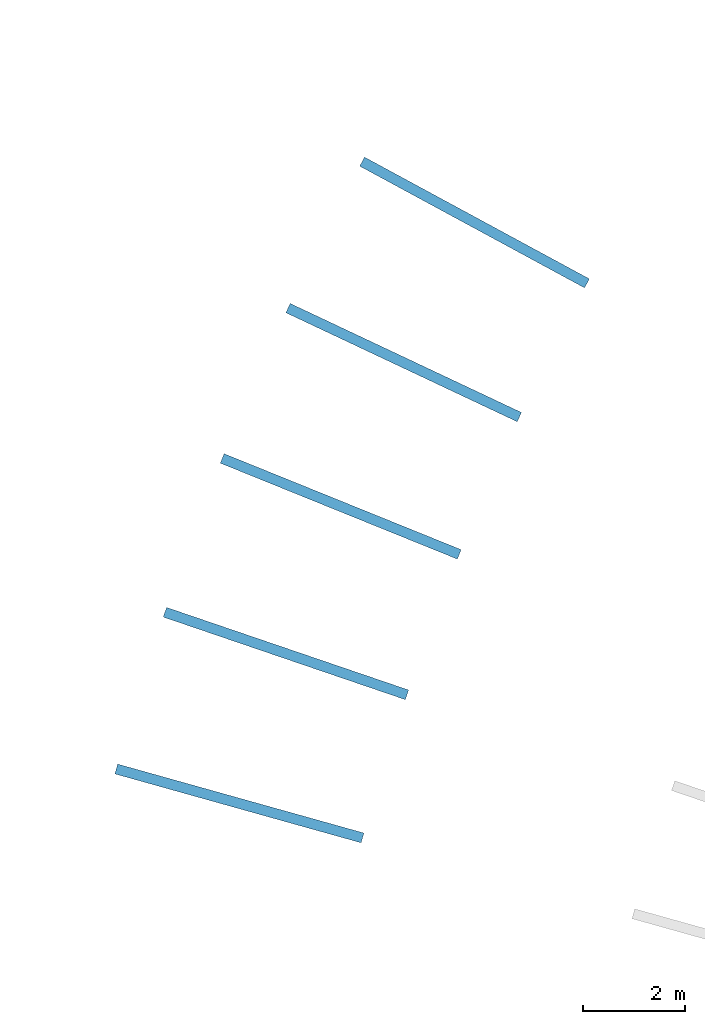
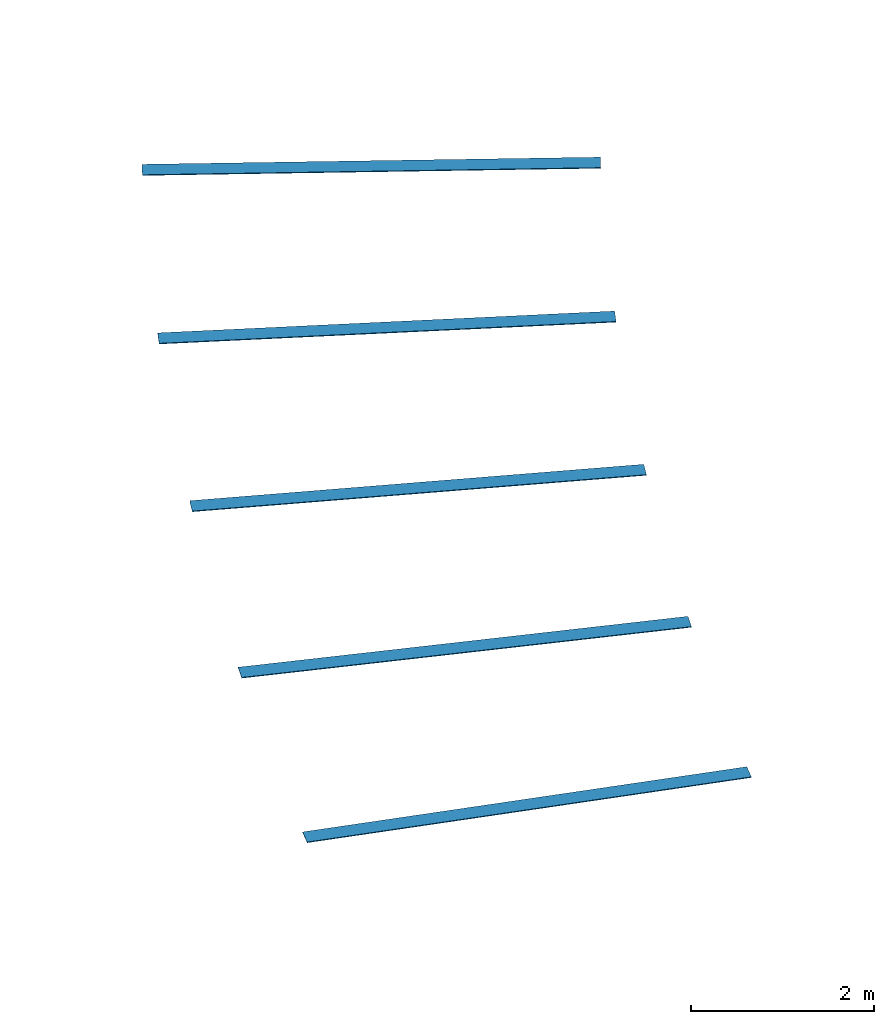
# One storey, part 87 of 157: 5 walls.
"""IFC2X3 building model written with IfcOpenShell, lengths in millimetres."""

from ifc_helpers import new_model, entity, si_unit, converted_unit, derived_unit, direction, frame, frame_2d, origin, origin_2d_with_axis, place, context, subcontext, project, spatial, rectangle, extrude, material, type_object, element, save


model = new_model("IFC2X3")

# Units and contexts
model_context = context("Model", 3, precision=0.01, world=origin(), true_north=direction((6.123031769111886e-17, 1.0)))
body_context = subcontext(model_context, "Body", "Model", "MODEL_VIEW")
ifc_project = project(units=[si_unit("LENGTHUNIT", "METRE", prefix="MILLI"), si_unit("AREAUNIT", "SQUARE_METRE"), si_unit("VOLUMEUNIT", "CUBIC_METRE"), converted_unit("PLANEANGLEUNIT", "DEGREE", entity("IfcRatioMeasure", 0.017453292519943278), si_unit("PLANEANGLEUNIT", "RADIAN"), dimensions=[0, 0, 0, 0, 0, 0, 0]), si_unit("MASSUNIT", "GRAM", prefix="KILO"), derived_unit("MASSDENSITYUNIT", [(si_unit("MASSUNIT", "GRAM", prefix="KILO"), 1), (si_unit("LENGTHUNIT", "METRE"), -3)]), derived_unit("MOMENTOFINERTIAUNIT", [(si_unit("LENGTHUNIT", "METRE"), 4)]), si_unit("TIMEUNIT", "SECOND"), si_unit("FREQUENCYUNIT", "HERTZ"), si_unit("THERMODYNAMICTEMPERATUREUNIT", "DEGREE_CELSIUS"), derived_unit("THERMALTRANSMITTANCEUNIT", [(si_unit("MASSUNIT", "GRAM", prefix="KILO"), 1), (si_unit("THERMODYNAMICTEMPERATUREUNIT", "KELVIN"), -1), (si_unit("TIMEUNIT", "SECOND"), -3)]), derived_unit("THERMALCONDUCTANCEUNIT", [(si_unit("MASSUNIT", "GRAM", prefix="KILO"), 1), (si_unit("LENGTHUNIT", "METRE"), 1), (si_unit("THERMODYNAMICTEMPERATUREUNIT", "KELVIN"), -1), (si_unit("TIMEUNIT", "SECOND"), -3)]), derived_unit("VOLUMETRICFLOWRATEUNIT", [(si_unit("LENGTHUNIT", "METRE"), 3), (si_unit("TIMEUNIT", "SECOND"), -1)]), derived_unit("MASSFLOWRATEUNIT", [(si_unit("MASSUNIT", "GRAM", prefix="KILO"), 1), (si_unit("TIMEUNIT", "SECOND"), -1)]), derived_unit("ROTATIONALFREQUENCYUNIT", [(si_unit("TIMEUNIT", "SECOND"), -1)]), si_unit("ELECTRICCURRENTUNIT", "AMPERE"), si_unit("ELECTRICVOLTAGEUNIT", "VOLT"), si_unit("POWERUNIT", "WATT"), converted_unit("FORCEUNIT", "KIP", entity("IfcRatioMeasure", 2.088543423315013e-05), si_unit("FORCEUNIT", "NEWTON"), dimensions=[1, 1, -2, 0, 0, 0, 0]), si_unit("ILLUMINANCEUNIT", "LUX"), si_unit("LUMINOUSFLUXUNIT", "LUMEN"), si_unit("LUMINOUSINTENSITYUNIT", "CANDELA"), derived_unit("USERDEFINED", [(si_unit("MASSUNIT", "GRAM", prefix="KILO"), -1), (si_unit("LENGTHUNIT", "METRE"), -2), (si_unit("TIMEUNIT", "SECOND"), 3), (si_unit("LUMINOUSFLUXUNIT", "LUMEN"), 1)]), derived_unit("USERDEFINED", [(si_unit("MASSUNIT", "GRAM", prefix="KILO"), 1), (si_unit("LENGTHUNIT", "METRE"), 3), (si_unit("TIMEUNIT", "SECOND"), -3), (si_unit("ELECTRICCURRENTUNIT", "AMPERE"), -2)]), derived_unit("USERDEFINED", [(si_unit("LENGTHUNIT", "METRE"), 2), (si_unit("TIMEUNIT", "SECOND"), -2)]), derived_unit("SOUNDPOWERUNIT", [(si_unit("MASSUNIT", "GRAM", prefix="KILO"), 1), (si_unit("LENGTHUNIT", "METRE"), 2), (si_unit("TIMEUNIT", "SECOND"), -3)]), derived_unit("SOUNDPRESSUREUNIT", [(si_unit("MASSUNIT", "GRAM", prefix="KILO"), 1), (si_unit("LENGTHUNIT", "METRE"), -1), (si_unit("TIMEUNIT", "SECOND"), -2)]), derived_unit("LINEARVELOCITYUNIT", [(si_unit("LENGTHUNIT", "METRE"), 1), (si_unit("TIMEUNIT", "SECOND"), -1)]), si_unit("PRESSUREUNIT", "PASCAL"), derived_unit("USERDEFINED", [(si_unit("LENGTHUNIT", "METRE"), -2), (si_unit("MASSUNIT", "GRAM", prefix="KILO"), 1), (si_unit("TIMEUNIT", "SECOND"), -2)]), derived_unit("LINEARFORCEUNIT", [(si_unit("MASSUNIT", "GRAM", prefix="KILO"), 1), (si_unit("LENGTHUNIT", "METRE"), 1), (si_unit("TIMEUNIT", "SECOND"), -2), (si_unit("LENGTHUNIT", "METRE"), -1)]), derived_unit("PLANARFORCEUNIT", [(si_unit("MASSUNIT", "GRAM", prefix="KILO"), 1), (si_unit("LENGTHUNIT", "METRE"), 1), (si_unit("TIMEUNIT", "SECOND"), -2), (si_unit("LENGTHUNIT", "METRE"), -2)]), derived_unit("SPECIFICHEATCAPACITYUNIT", [(si_unit("LENGTHUNIT", "METRE"), 2), (si_unit("TIMEUNIT", "SECOND"), -2), (si_unit("THERMODYNAMICTEMPERATUREUNIT", "KELVIN"), -1)]), derived_unit("VAPORPERMEABILITYUNIT", [(si_unit("TIMEUNIT", "SECOND"), 1), (si_unit("LENGTHUNIT", "METRE"), -1)]), derived_unit("DYNAMICVISCOSITYUNIT", [(si_unit("MASSUNIT", "GRAM", prefix="KILO"), 1), (si_unit("LENGTHUNIT", "METRE"), -1), (si_unit("TIMEUNIT", "SECOND"), -1)]), derived_unit("THERMALEXPANSIONCOEFFICIENTUNIT", [(si_unit("THERMODYNAMICTEMPERATUREUNIT", "KELVIN"), -1)])], contexts=[model_context])

# Site, building, storey
site_placement = place(None, frame((0.0, 0.0, 0.0), z_axis=(0.0, 0.0, 1.0), x_axis=(0.8191520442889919, 0.5735764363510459, 0.0)))
site = spatial("IfcSite", under=ifc_project, at=site_placement, Name="Default", CompositionType="ELEMENT")
building_placement = place(site_placement, origin())
building = spatial("IfcBuilding", under=site, at=building_placement, CompositionType="ELEMENT")
storey_placement = place(building_placement, origin())
storey = spatial("IfcBuildingStorey", under=building, at=storey_placement, Name="1.EG +0.00", CompositionType="ELEMENT", Elevation=-4.331468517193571e-12)

# Walls
ifc_material = material(Name="road_markirovka")
wall_type_1 = type_object("IfcWallType", Name="83", PredefinedType="NOTDEFINED", material=ifc_material)
wall_1_placement = place(storey_placement, frame((-66127.65770702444, -21035.492749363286, 400.0), z_axis=(0.0, 0.0, 1.0), x_axis=(0.0, 1.0, 0.0)))
element("IfcWall", 1, at=wall_1_placement, inside=storey, type_object=wall_type_1, material=ifc_material, Name="83:83", ObjectType="83:83", context=body_context, shape_type="SweptSolid", body=[
    extrude(rectangle(XDim=199.99999999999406, YDim=5000.000000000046, at=frame_2d((2.9771740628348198e-12, -3.637978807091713e-12), x_axis=(1.0, 0.0))), frame((2280.7629412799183, -1207.532940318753, 0.0), z_axis=(0.0, 0.0, 1.0), x_axis=(0.4472365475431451, -0.8944157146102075, 0.0)), (0.0, 0.0, 1.0), 9.999999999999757),
])
wall_type_2 = type_object("IfcWallType", Name="86", PredefinedType="NOTDEFINED", material=ifc_material)
wall_2_placement = place(storey_placement, frame((-74331.47293827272, -25620.34720745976, 400.0), z_axis=(0.0, 0.0, 1.0), x_axis=(0.0, 1.0, 0.0)))
element("IfcWall", 2, at=wall_2_placement, inside=storey, type_object=wall_type_2, material=ifc_material, Name="86 206606:86 206606", ObjectType="86 206606:86 206606", context=body_context, shape_type="SweptSolid", body=[
    extrude(rectangle(XDim=200.0000000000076, YDim=5000.000000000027, at=origin_2d_with_axis()), frame((2077.399309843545, -1555.8932232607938, 0.0), z_axis=(0.0, 0.0, 1.0), x_axis=(0.5900630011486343, -0.8073572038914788, 0.0)), (0.0, 0.0, 1.0), 9.999999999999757),
])
wall_type_3 = type_object("IfcWallType", Name="85", PredefinedType="NOTDEFINED", material=ifc_material)
wall_3_placement = place(storey_placement, frame((-71691.74789798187, -23953.423241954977, 400.0), z_axis=(0.0, 0.0, 1.0), x_axis=(0.0, 1.0, 0.0)))
element("IfcWall", 3, at=wall_3_placement, inside=storey, type_object=wall_type_3, material=ifc_material, Name="85 206813:85 206813", ObjectType="85 206813:85 206813", context=body_context, shape_type="SweptSolid", body=[
    extrude(rectangle(XDim=200.00000000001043, YDim=5000.0000000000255, at=origin_2d_with_axis()), frame((2151.961435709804, -1444.15124079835, 0.0), z_axis=(0.0, 0.0, 1.0), x_axis=(0.5440996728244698, -0.8390205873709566, 0.0)), (0.0, 0.0, 1.0), 9.999999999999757),
])
wall_type_4 = type_object("IfcWallType", Name="87", PredefinedType="NOTDEFINED", material=ifc_material)
wall_4_placement = place(storey_placement, frame((-76865.25211391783, -27419.128902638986, 400.0), z_axis=(0.0, 0.0, 1.0), x_axis=(0.0, 1.0, 0.0)))
element("IfcWall", 4, at=wall_4_placement, inside=storey, type_object=wall_type_4, material=ifc_material, Name="87 206816:87 206816", ObjectType="87 206816:87 206816", context=body_context, shape_type="SweptSolid", body=[
    extrude(rectangle(XDim=199.9999999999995, YDim=5000.0, at=frame_2d((3.318234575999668e-12, -2.7284841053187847e-12), x_axis=(1.0, 0.0))), frame((1996.3656750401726, -1662.7882911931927, 0.0), z_axis=(0.0, 0.0, 1.0), x_axis=(0.634188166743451, -0.7731787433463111, 0.0)), (0.0, 0.0, 1.0), 9.999999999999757),
])
wall_type_5 = type_object("IfcWallType", Name="84", PredefinedType="NOTDEFINED", material=ifc_material)
wall_5_placement = place(storey_placement, frame((-68954.30025763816, -22423.54980333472, 400.0), z_axis=(0.0, 0.0, 1.0), x_axis=(0.0, 1.0, 0.0)))
element("IfcWall", 5, at=wall_5_placement, inside=storey, type_object=wall_type_5, material=ifc_material, Name="84 206824:84 206824", ObjectType="84 206824:84 206824", context=body_context, shape_type="SweptSolid", body=[
    extrude(rectangle(XDim=200.00000000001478, YDim=5000.00000000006, at=frame_2d((-4.874323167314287e-12, 2.2737367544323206e-13), x_axis=(1.0, 0.0))), frame((2219.8197768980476, -1327.9104421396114, 0.0), z_axis=(0.0, 0.0, 1.0), x_axis=(0.49644136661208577, -0.8680702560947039, 0.0)), (0.0, 0.0, 1.0), 9.999999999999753),
])

save(model, "model.ifc")
